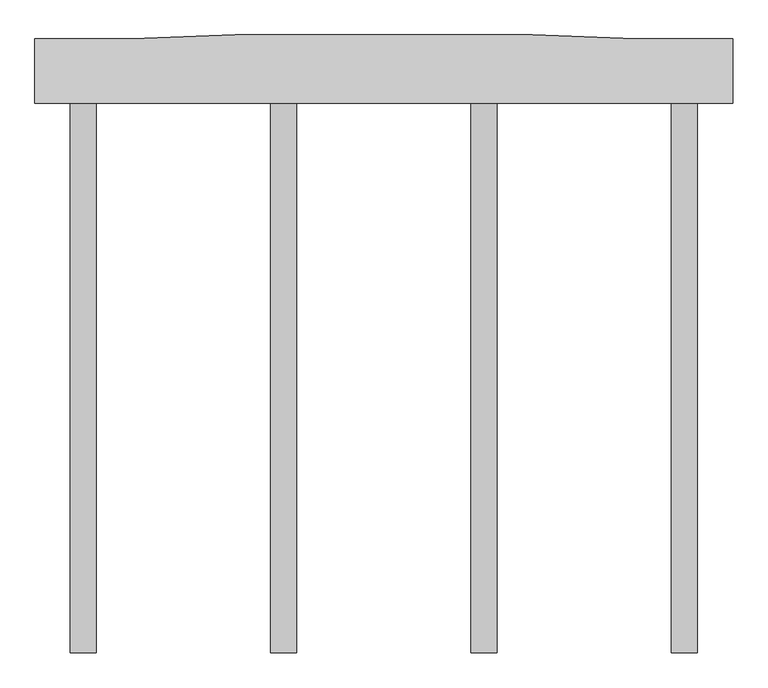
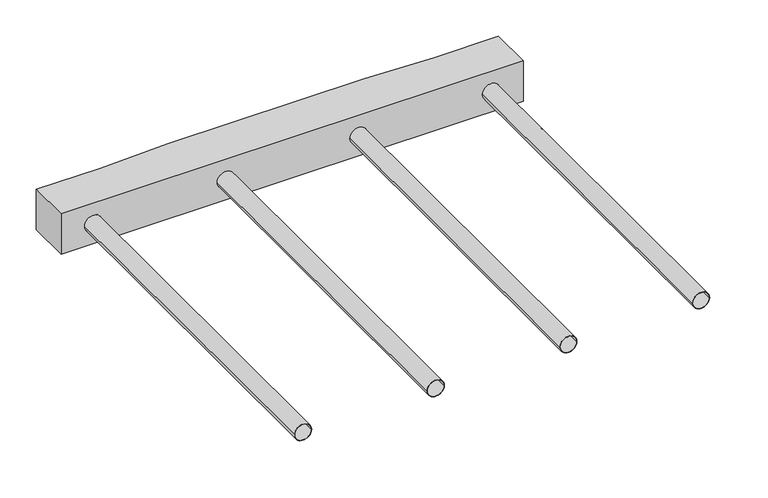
"""IFC4 building model written with IfcOpenShell, lengths in millimetres: proxy geometry, CapAbutAssemble.sat."""

from ifc_helpers import new_model, si_unit, point, frame, frame_2d, origin, place, context, project, spatial, polyline, circle_curve, trimmed, segment, composite_curve, outline, extrude, source, transform, mapped, element, save
from ifc_brep_helpers import plane_surface, revolved_surface, advanced_brep


def generic_models_e6c3eeac(model_context):
    return source(origin(), model_context, "Body", "SolidModel", [
        advanced_brep(
        [(4927.6, 508.0, -508.0), (4927.6, 0.0, -508.0), (4521.2, 0.0, -508.0), (4521.2, 508.0, -508.0), (-1371.6, 508.0, -508.0), (-1371.6, 0.0, -508.0), (-1778.0, 0.0, -508.0), (-1778.0, 508.0, -508.0), (-4521.2, 508.0, -508.0), (-4521.2, 0.0, -508.0), (-4927.6, 0.0, -508.0), (-4927.6, 508.0, -508.0), (1778.0, 508.0, -508.0), (1778.0, 0.0, -508.0), (1371.6, 0.0, -508.0), (1371.6, 508.0, -508.0), (2336.8, 1076.96, 0.0), (3962.4, 1016.0, 0.0), (3962.4, 1016.0, -1016.0), (2336.8, 1076.96, -1016.0), (-2336.8, 1076.96, 0.0), (-2336.8, 1076.96, -1016.0), (-3962.4, 1016.0, 0.0), (-3962.4, 1016.0, -1016.0), (-5486.4, 1016.0, 0.0), (-5486.4, 1016.0, -1016.0), (-5486.4, 0.0, 0.0), (-5486.4, 0.0, -1016.0), (5486.4, 0.0, 0.0), (5486.4, 0.0, -1016.0), (5486.4, 1016.0, 0.0), (5486.4, 1016.0, -1016.0)],
        [
            (0, 1),
            (1, 2, circle_curve(frame((4724.4, 0.0, -508.0), z_axis=(0.0, -1.0, 0.0), x_axis=(1.0, 0.0, 0.0)), 203.2)),
            (2, 3),
            (3, 0, circle_curve(frame((4724.4, 508.0, -508.0), z_axis=(0.0, 1.0, 0.0), x_axis=(1.0, 0.0, 0.0)), 203.2)),
            (4, 5),
            (5, 6, circle_curve(frame((-1574.8, 0.0, -508.0), z_axis=(0.0, -1.0, 0.0), x_axis=(1.0, 0.0, 0.0)), 203.2)),
            (6, 7),
            (7, 4, circle_curve(frame((-1574.8, 508.0, -508.0), z_axis=(0.0, 1.0, 0.0), x_axis=(1.0, 0.0, 0.0)), 203.2)),
            (8, 9),
            (9, 10, circle_curve(frame((-4724.4, 0.0, -508.0), z_axis=(0.0, -1.0, 0.0), x_axis=(1.0, 0.0, 0.0)), 203.2)),
            (10, 11),
            (11, 8, circle_curve(frame((-4724.4, 508.0, -508.0), z_axis=(0.0, 1.0, 0.0), x_axis=(1.0, 0.0, 0.0)), 203.2)),
            (12, 13),
            (13, 14, circle_curve(frame((1574.8, 0.0, -508.0), z_axis=(0.0, -1.0, 0.0), x_axis=(1.0, 0.0, 0.0)), 203.2)),
            (14, 15),
            (15, 12, circle_curve(frame((1574.8, 508.0, -508.0), z_axis=(0.0, 1.0, 0.0), x_axis=(1.0, 0.0, 0.0)), 203.2)),
            (12, 15, circle_curve(frame((1574.8, 508.0, -508.0), z_axis=(0.0, 1.0, 0.0), x_axis=(1.0, 0.0, 0.0)), 203.2)),
            (14, 13, circle_curve(frame((1574.8, 0.0, -508.0), z_axis=(0.0, -1.0, 0.0), x_axis=(1.0, 0.0, 0.0)), 203.2)),
            (8, 11, circle_curve(frame((-4724.4, 508.0, -508.0), z_axis=(0.0, 1.0, 0.0), x_axis=(1.0, 0.0, 0.0)), 203.2)),
            (10, 9, circle_curve(frame((-4724.4, 0.0, -508.0), z_axis=(0.0, -1.0, 0.0), x_axis=(1.0, 0.0, 0.0)), 203.2)),
            (4, 7, circle_curve(frame((-1574.8, 508.0, -508.0), z_axis=(0.0, 1.0, 0.0), x_axis=(1.0, 0.0, 0.0)), 203.2)),
            (6, 5, circle_curve(frame((-1574.8, 0.0, -508.0), z_axis=(0.0, -1.0, 0.0), x_axis=(1.0, 0.0, 0.0)), 203.2)),
            (0, 3, circle_curve(frame((4724.4, 508.0, -508.0), z_axis=(0.0, 1.0, 0.0), x_axis=(1.0, 0.0, 0.0)), 203.2)),
            (2, 1, circle_curve(frame((4724.4, 0.0, -508.0), z_axis=(0.0, -1.0, 0.0), x_axis=(1.0, 0.0, 0.0)), 203.2)),
            (16, 17),
            (17, 18),
            (18, 19),
            (19, 16),
            (20, 16),
            (19, 21),
            (21, 20),
            (22, 20),
            (21, 23),
            (23, 22),
            (24, 22),
            (23, 25),
            (25, 24),
            (26, 24),
            (25, 27),
            (27, 26),
            (28, 26),
            (27, 29),
            (29, 28),
            (30, 28),
            (29, 31),
            (31, 30),
            (17, 30),
            (31, 18),
        ],
        [
            revolved_surface(polyline([(4927.599999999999, 0.0, -508.0), (4927.599999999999, 508.0, -508.0)]), (4724.4, 254.0, -508.0), (0.0, -1.0, 0.0)),
            revolved_surface(polyline([(-1371.6, 0.0, -508.0), (-1371.6, 508.0, -508.0)]), (-1574.8, 254.0, -508.0), (0.0, -1.0, 0.0)),
            revolved_surface(polyline([(-4521.2, 0.0, -508.0), (-4521.2, 508.0, -508.0)]), (-4724.4, 254.0, -508.0), (0.0, -1.0, 0.0)),
            revolved_surface(polyline([(1778.0, 0.0, -508.0), (1778.0, 508.0, -508.0)]), (1574.8, 254.0, -508.0), (0.0, -1.0, 0.0)),
            plane_surface(frame((1574.8, 508.0, -508.0), z_axis=(0.0, -1.0, 0.0), x_axis=(1.0, 0.0, 0.0))),
            plane_surface(frame((-4724.4, 508.0, -508.0), z_axis=(0.0, -1.0, 0.0), x_axis=(1.0, 0.0, 0.0))),
            plane_surface(frame((-1574.8, 508.0, -508.0), z_axis=(0.0, -1.0, 0.0), x_axis=(1.0, 0.0, 0.0))),
            plane_surface(frame((4724.4, 508.0, -508.0), z_axis=(0.0, -1.0, 0.0), x_axis=(1.0, 0.0, 0.0))),
            plane_surface(frame((2336.8, 1076.96, 0.0), z_axis=(0.037473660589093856, 0.9992976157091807, 0.0), x_axis=(0.9992976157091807, -0.037473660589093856, 0.0))),
            plane_surface(frame((-2336.8, 1076.96, 0.0), z_axis=(0.0, 1.0, 0.0), x_axis=(1.0, 0.0, 0.0))),
            plane_surface(frame((-3962.4, 1016.0, 0.0), z_axis=(-0.037473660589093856, 0.9992976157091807, 0.0), x_axis=(0.9992976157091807, 0.037473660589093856, 0.0))),
            plane_surface(frame((-5486.4, 1016.0, 0.0), z_axis=(0.0, 1.0, 0.0), x_axis=(1.0, 0.0, 0.0))),
            plane_surface(frame((-5486.4, 0.0, 0.0), z_axis=(-1.0, 0.0, 0.0), x_axis=(0.0, 1.0, 0.0))),
            plane_surface(frame((5486.4, 0.0, 0.0), z_axis=(0.0, -1.0, 0.0), x_axis=(-1.0, 0.0, 0.0))),
            plane_surface(frame((5486.4, 1016.0, 0.0), z_axis=(1.0, 0.0, 0.0), x_axis=(0.0, -1.0, 0.0))),
            plane_surface(frame((3962.4, 1016.0, 0.0), z_axis=(0.0, 1.0, 0.0), x_axis=(1.0, 0.0, 0.0))),
            plane_surface(frame((0.0, 538.48, 0.0), z_axis=(0.0, 0.0, 1.0), x_axis=(1.0, 0.0, 0.0))),
            plane_surface(frame((0.0, 538.48, -1016.0), z_axis=(0.0, 0.0, -1.0), x_axis=(-1.0, 0.0, 0.0))),
        ],
        [
            (0, [[1, 2, 3, 4]]),
            (1, [[5, 6, 7, 8]]),
            (2, [[9, 10, 11, 12]]),
            (3, [[13, 14, 15, 16]]),
            (3, [[-13, 17, -15, 18]]),
            (4, [[-16, -17]]),
            (2, [[-9, 19, -11, 20]]),
            (5, [[-12, -19]]),
            (1, [[-5, 21, -7, 22]]),
            (6, [[-8, -21]]),
            (0, [[-1, 23, -3, 24]]),
            (7, [[-4, -23]]),
            (8, [[25, 26, 27, 28]]),
            (9, [[29, -28, 30, 31]]),
            (10, [[32, -31, 33, 34]]),
            (11, [[35, -34, 36, 37]]),
            (12, [[38, -37, 39, 40]]),
            (13, [[41, -40, 42, 43], [-18, -14], [-20, -10], [-22, -6], [-24, -2]]),
            (14, [[44, -43, 45, 46]]),
            (15, [[47, -46, 48, -26]]),
            (16, [[-47, -25, -29, -32, -35, -38, -41, -44]]),
            (17, [[-48, -45, -42, -39, -36, -33, -30, -27]]),
        ],
    ),
        extrude(outline(composite_curve([segment(trimmed(circle_curve(frame_2d((-508.0, -4724.4)), 203.2), [point((-508.0, -4521.2))], [point((-508.0, -4927.6))], False, "CARTESIAN"), True, "CONTINUOUS"), segment(trimmed(circle_curve(frame_2d((-508.0, -4724.4)), 203.2), [point((-508.0, -4927.6))], [point((-508.0, -4521.2))], False, "CARTESIAN"), True, "CONTINUOUS")], self_intersect=False), holes=[composite_curve([segment(trimmed(circle_curve(frame_2d((-508.0, -4724.4)), 190.5), [point((-508.0, -4533.9))], [point((-508.0, -4914.9))], True, "CARTESIAN"), True, "CONTINUOUS"), segment(trimmed(circle_curve(frame_2d((-508.0, -4724.4)), 190.5), [point((-508.0, -4914.9))], [point((-508.0, -4533.9))], True, "CARTESIAN"), True, "CONTINUOUS")], self_intersect=False)]), frame((0.0, -8636.0, 0.0), z_axis=(0.0, 1.0, 0.0), x_axis=(0.0, 0.0, 1.0)), (0.0, 0.0, 1.0), 9144.0),
        extrude(outline(composite_curve([segment(trimmed(circle_curve(frame_2d((-508.0, -1574.8)), 203.2), [point((-508.0, -1371.6))], [point((-508.0, -1778.0))], False, "CARTESIAN"), True, "CONTINUOUS"), segment(trimmed(circle_curve(frame_2d((-508.0, -1574.8)), 203.2), [point((-508.0, -1778.0))], [point((-508.0, -1371.6))], False, "CARTESIAN"), True, "CONTINUOUS")], self_intersect=False), holes=[composite_curve([segment(trimmed(circle_curve(frame_2d((-508.0, -1574.8)), 190.5), [point((-508.0, -1384.3))], [point((-508.0, -1765.3))], True, "CARTESIAN"), True, "CONTINUOUS"), segment(trimmed(circle_curve(frame_2d((-508.0, -1574.8)), 190.5), [point((-508.0, -1765.3))], [point((-508.0, -1384.3))], True, "CARTESIAN"), True, "CONTINUOUS")], self_intersect=False)]), frame((0.0, -8636.0, 0.0), z_axis=(0.0, 1.0, 0.0), x_axis=(0.0, 0.0, 1.0)), (0.0, 0.0, 1.0), 9144.0),
        extrude(outline(composite_curve([segment(trimmed(circle_curve(frame_2d((-508.0, 1574.8)), 203.2), [point((-508.0, 1778.0))], [point((-508.0, 1371.6))], False, "CARTESIAN"), True, "CONTINUOUS"), segment(trimmed(circle_curve(frame_2d((-508.0, 1574.8)), 203.2), [point((-508.0, 1371.6))], [point((-508.0, 1778.0))], False, "CARTESIAN"), True, "CONTINUOUS")], self_intersect=False), holes=[composite_curve([segment(trimmed(circle_curve(frame_2d((-508.0, 1574.8)), 190.5), [point((-508.0, 1765.3))], [point((-508.0, 1384.3))], True, "CARTESIAN"), True, "CONTINUOUS"), segment(trimmed(circle_curve(frame_2d((-508.0, 1574.8)), 190.5), [point((-508.0, 1384.3))], [point((-508.0, 1765.3))], True, "CARTESIAN"), True, "CONTINUOUS")], self_intersect=False)]), frame((0.0, -8636.0, 0.0), z_axis=(0.0, 1.0, 0.0), x_axis=(0.0, 0.0, 1.0)), (0.0, 0.0, 1.0), 9144.0),
        extrude(outline(composite_curve([segment(trimmed(circle_curve(frame_2d((-508.0, 4724.4)), 203.2), [point((-508.0, 4927.6))], [point((-508.0, 4521.2))], False, "CARTESIAN"), True, "CONTINUOUS"), segment(trimmed(circle_curve(frame_2d((-508.0, 4724.4)), 203.2), [point((-508.0, 4521.2))], [point((-508.0, 4927.6))], False, "CARTESIAN"), True, "CONTINUOUS")], self_intersect=False), holes=[composite_curve([segment(trimmed(circle_curve(frame_2d((-508.0, 4724.4)), 190.5), [point((-508.0, 4914.9))], [point((-508.0, 4533.9))], True, "CARTESIAN"), True, "CONTINUOUS"), segment(trimmed(circle_curve(frame_2d((-508.0, 4724.4)), 190.5), [point((-508.0, 4533.9))], [point((-508.0, 4914.9))], True, "CARTESIAN"), True, "CONTINUOUS")], self_intersect=False)]), frame((0.0, -8636.0, 0.0), z_axis=(0.0, 1.0, 0.0), x_axis=(0.0, 0.0, 1.0)), (0.0, 0.0, 1.0), 9144.0),
    ])


if __name__ == "__main__":
    model = new_model("IFC4")
    model_context = context("Model", 3, world=origin())
    ifc_project = project(units=[si_unit("LENGTHUNIT", "METRE", prefix="MILLI")], contexts=[model_context])
    site = spatial("IfcSite", under=ifc_project)
    building = spatial("IfcBuilding", under=site)
    placement = place(None, origin())
    generic_models_shape = generic_models_e6c3eeac(model_context)
    element("IfcBuildingElementProxy", 1, Name="CapAbutAssemble.sat", ObjectType="CapAbutAssemble.sat", at=placement, inside=building, context=model_context, shape_type="MappedRepresentation", body=[
        mapped(generic_models_shape, transform((0.0, 0.0, 0.0), x_axis=(1.0, 0.0, 0.0), y_axis=(0.0, 1.0, 0.0), z_axis=(0.0, 0.0, 1.0))),
    ])
    save(model, "model.ifc")
